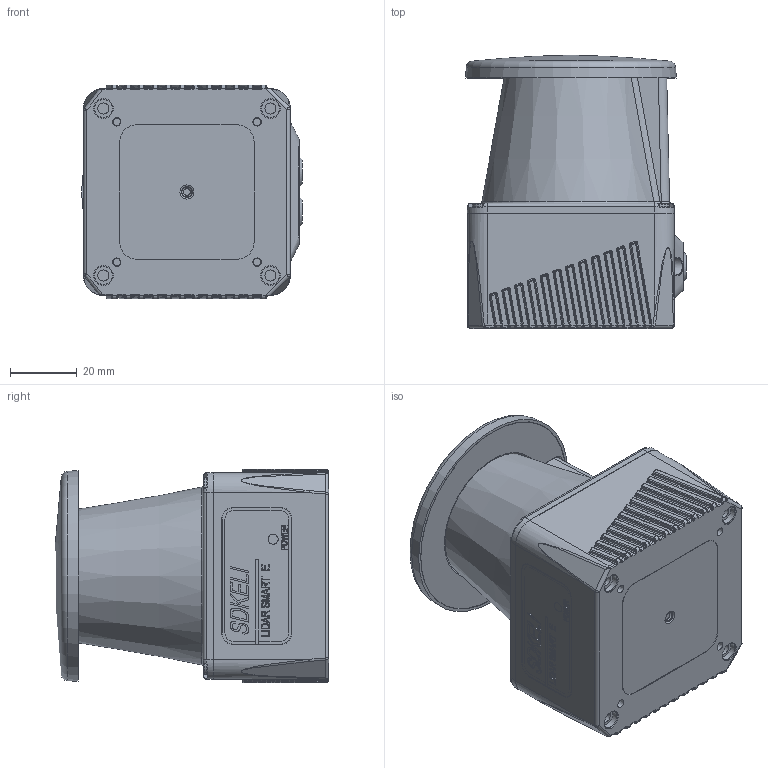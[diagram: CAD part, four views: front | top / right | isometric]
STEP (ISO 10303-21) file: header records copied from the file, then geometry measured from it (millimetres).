
FILE_DESCRIPTION(/* description */ (''),/* implementation_level */ '2;1');
FILE_NAME(/* name */ 'LSE-AP.stp',/* time_stamp */ '2025-08-06T14:08:26+08:00',/* author */ (''),/* organization */ (''),/* preprocessor_version */ 'ST-DEVELOPER v16',/* originating_system */ 'SIEMENS PLM Software NX 10.0',/* authorisation */ '');
FILE_SCHEMA (('AP203_CONFIGURATION_CONTROLLED_3D_DESIGN_OF_MECHANICAL_PARTS_AND_ASSEMBLIES_MIM_LF { 1 0 10303 403 2 1 2}'));
Products named in the file (1): JSB-34C87966jxmz
Bounding box: 66.16 x 81.78 x 64 mm (x, y, z)
Volume: 66520 mm3; surface area: 63155 mm2
Topology: 2 solids, 8 shells, 1948 faces, 4848 edges, 2967 vertices
Faces by surface type: plane 776, cylinder 504, bspline 286, cone 141, extrusion 95, sphere 82, torus 64
Full cylindrical faces by diameter (mm): 2.3 x2, 3 x5, 3.3 x8, 4.5 x4, 5 x2, 5.3 x8, 5.9 x4, 6 x4
Entity records: 72001 total; most frequent: CARTESIAN_POINT 25041, ORIENTED_EDGE 9260, DIRECTION 7462, EDGE_CURVE 4630, VERTEX_POINT 2908, AXIS2_PLACEMENT_3D 2720, EDGE_LOOP 2176, VECTOR 2022
